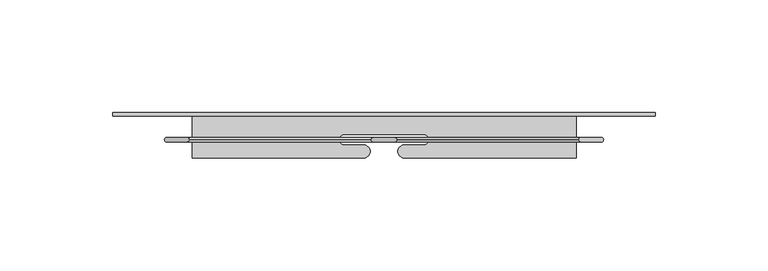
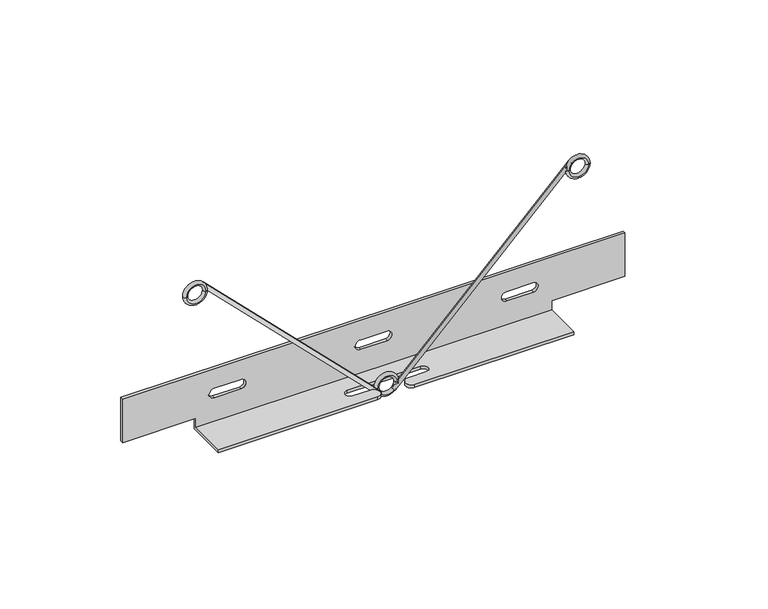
"""IFC4 building model written with IfcOpenShell, lengths in millimetres: proxy geometry, Agilis Panel Springs_Installed : Agilis Panel Springs_Installed."""

from ifc_helpers import new_model, si_unit, point, frame, frame_2d, origin, place, context, project, spatial, polyline, circle_curve, ellipse_curve, trimmed, segment, composite_curve, outline, extrude, source, transform, mapped, element, save
from ifc_brep_helpers import plane_surface, cylinder_surface, revolved_surface, advanced_brep


def generic_models_b4303d49(model_context):
    return source(origin(), model_context, "Body", "SolidModel", [
        advanced_brep(
        [(-120.0, 10.45, 28.0), (-120.0, 10.45, 6.0), (-85.0, 10.45, 6.0), (-85.0, 10.45, 1.5), (85.0, 10.45, 1.5), (85.0, 10.45, 6.0), (120.0, 10.45, 6.0), (120.0, 10.45, 28.0), (-6.35, 10.45, 18.1), (6.35, 10.45, 18.1), (6.35, 10.45, 13.4), (-6.35, 10.45, 13.4), (-76.2, 10.45, 18.1), (-63.5, 10.45, 18.1), (-63.5, 10.45, 13.4), (-76.2, 10.45, 13.4), (76.2, 10.45, 18.1), (76.2, 10.45, 13.4), (63.5, 10.45, 13.4), (63.5, 10.45, 18.1), (120.0, 11.95, 28.0), (120.0, 11.95, 6.0), (85.0, 11.95, 6.0), (85.0, 11.95, 0.0), (-85.0, 11.95, 0.0), (-85.0, 11.95, 6.0), (-120.0, 11.95, 6.0), (-120.0, 11.95, 28.0), (-6.35, 11.95, 13.4), (6.35, 11.95, 13.4), (6.35, 11.95, 18.1), (-6.35, 11.95, 18.1), (-76.2, 11.95, 13.4), (-63.5, 11.95, 13.4), (-63.5, 11.95, 18.1), (-76.2, 11.95, 18.1), (63.5, 11.95, 18.1), (63.5, 11.95, 13.4), (76.2, 11.95, 13.4), (76.2, 11.95, 18.1), (-85.0, -8.05, 1.5), (-9.0, -8.05, 1.5), (-9.0, -2.35, 1.5), (-17.5, -2.35, 1.5), (-17.5, 2.35, 1.5), (17.5, 2.35, 1.5), (17.5, -2.35, 1.5), (9.0, -2.35, 1.5), (9.0, -8.05, 1.5), (85.0, -8.05, 1.5), (85.0, -8.05, 0.0), (9.0, -8.05, 0.0), (9.0, -2.35, 0.0), (17.5, -2.35, 0.0), (17.5, 2.35, 0.0), (-17.5, 2.35, 0.0), (-17.5, -2.35, 0.0), (-9.0, -2.35, 0.0), (-9.0, -8.05, 0.0), (-85.0, -8.05, 0.0)],
        [
            (0, 1),
            (1, 2),
            (2, 3),
            (3, 4),
            (4, 5),
            (5, 6),
            (6, 7),
            (7, 0),
            (8, 9),
            (9, 10, circle_curve(frame((6.35, 10.45, 15.75), z_axis=(0.0, 1.0, 0.0), x_axis=(1.0, 0.0, 0.0)), 2.35)),
            (10, 11),
            (11, 8, circle_curve(frame((-6.35, 10.45, 15.75), z_axis=(0.0, 1.0, 0.0), x_axis=(1.0, 0.0, 0.0)), 2.35)),
            (12, 13),
            (13, 14, circle_curve(frame((-63.5, 10.45, 15.75), z_axis=(0.0, 1.0, 0.0), x_axis=(1.0, 0.0, 0.0)), 2.35)),
            (14, 15),
            (15, 12, circle_curve(frame((-76.2, 10.45, 15.75), z_axis=(0.0, 1.0, 0.0), x_axis=(1.0, 0.0, 0.0)), 2.35)),
            (16, 17, circle_curve(frame((76.2, 10.45, 15.75), z_axis=(0.0, 1.0, 0.0), x_axis=(-1.0, 0.0, 0.0)), 2.35)),
            (17, 18),
            (18, 19, circle_curve(frame((63.5, 10.45, 15.75), z_axis=(0.0, 1.0, 0.0), x_axis=(-1.0, 0.0, 0.0)), 2.35)),
            (19, 16),
            (20, 21),
            (21, 22),
            (22, 23),
            (23, 24),
            (24, 25),
            (25, 26),
            (26, 27),
            (27, 20),
            (28, 29),
            (29, 30, circle_curve(frame((6.35, 11.95, 15.75), z_axis=(0.0, -1.0, 0.0), x_axis=(1.0, 0.0, 0.0)), 2.35)),
            (30, 31),
            (31, 28, circle_curve(frame((-6.35, 11.95, 15.75), z_axis=(0.0, -1.0, 0.0), x_axis=(1.0, 0.0, 0.0)), 2.35)),
            (32, 33),
            (33, 34, circle_curve(frame((-63.5, 11.95, 15.75), z_axis=(0.0, -1.0, 0.0), x_axis=(1.0, 0.0, 0.0)), 2.35)),
            (34, 35),
            (35, 32, circle_curve(frame((-76.2, 11.95, 15.75), z_axis=(0.0, -1.0, 0.0), x_axis=(1.0, 0.0, 0.0)), 2.35)),
            (36, 37, circle_curve(frame((63.5, 11.95, 15.75), z_axis=(0.0, -1.0, 0.0), x_axis=(-1.0, 0.0, 0.0)), 2.35)),
            (37, 38),
            (38, 39, circle_curve(frame((76.2, 11.95, 15.75), z_axis=(0.0, -1.0, 0.0), x_axis=(-1.0, 0.0, 0.0)), 2.35)),
            (39, 36),
            (6, 21),
            (20, 7),
            (27, 0),
            (26, 1),
            (40, 41),
            (41, 42, circle_curve(frame((-9.0, -5.2, 1.5), z_axis=(0.0, 0.0, 1.0), x_axis=(-1.0, 0.0, 0.0)), 2.85)),
            (42, 43),
            (43, 44, circle_curve(frame((-17.5, 0.0, 1.5), z_axis=(0.0, 0.0, -1.0), x_axis=(-1.0, 0.0, 0.0)), 2.35)),
            (44, 45),
            (45, 46, circle_curve(frame((17.5, 0.0, 1.5), z_axis=(0.0, 0.0, -1.0), x_axis=(1.0, 0.0, 0.0)), 2.35)),
            (46, 47),
            (47, 48, circle_curve(frame((9.0, -5.2, 1.5), z_axis=(0.0, 0.0, 1.0), x_axis=(1.0, 0.0, 0.0)), 2.85)),
            (48, 49),
            (49, 4),
            (3, 40),
            (50, 51),
            (51, 52, circle_curve(frame((9.0, -5.2, 0.0), z_axis=(0.0, 0.0, -1.0), x_axis=(1.0, 0.0, 0.0)), 2.85)),
            (52, 53),
            (53, 54, circle_curve(frame((17.5, 0.0, 0.0), z_axis=(0.0, 0.0, 1.0), x_axis=(1.0, 0.0, 0.0)), 2.35)),
            (54, 55),
            (55, 56, circle_curve(frame((-17.5, 0.0, 0.0), z_axis=(0.0, 0.0, 1.0), x_axis=(-1.0, 0.0, 0.0)), 2.35)),
            (56, 57),
            (57, 58, circle_curve(frame((-9.0, -5.2, 0.0), z_axis=(0.0, 0.0, -1.0), x_axis=(-1.0, 0.0, 0.0)), 2.85)),
            (58, 59),
            (59, 24),
            (23, 50),
            (48, 51),
            (50, 49),
            (58, 41),
            (40, 59),
            (2, 25),
            (22, 5),
            (57, 42),
            (56, 43),
            (55, 44),
            (54, 45),
            (53, 46),
            (52, 47),
            (11, 28),
            (31, 8),
            (10, 29),
            (9, 30),
            (15, 32),
            (35, 12),
            (14, 33),
            (13, 34),
            (19, 36),
            (39, 16),
            (18, 37),
            (17, 38),
        ],
        [
            plane_surface(frame((-85.0, 10.45, 1.5), z_axis=(0.0, -1.0, 0.0), x_axis=(-1.0, 0.0, 0.0))),
            plane_surface(frame((-85.0, 11.95, 1.5), z_axis=(0.0, 1.0, 0.0), x_axis=(1.0, 0.0, 0.0))),
            plane_surface(frame((120.0, 11.95, 1.5), z_axis=(1.0, 0.0, 0.0), x_axis=(0.0, -1.0, 0.0))),
            plane_surface(frame((120.0, 11.95, 28.0), z_axis=(0.0, 0.0, 1.0), x_axis=(0.0, -1.0, 0.0))),
            plane_surface(frame((-120.0, 11.95, 28.0), z_axis=(-1.0, 0.0, 0.0), x_axis=(0.0, -1.0, 0.0))),
            plane_surface(frame((-85.0, -8.05, 1.5), z_axis=(0.0, 0.0, 1.0), x_axis=(-1.0, 0.0, 0.0))),
            plane_surface(frame((-85.0, -8.05, 0.0), z_axis=(0.0, 0.0, -1.0), x_axis=(1.0, 0.0, 0.0))),
            plane_surface(frame((85.0, -8.05, 1.5), z_axis=(0.0, -1.0, 0.0), x_axis=(0.0, 0.0, -1.0))),
            plane_surface(frame((-85.0, -8.05, 1.5), z_axis=(-1.0, 0.0, 0.0), x_axis=(0.0, 0.0, -1.0))),
            plane_surface(frame((85.0, 11.95, 1.5), z_axis=(1.0, 0.0, 0.0), x_axis=(0.0, 0.0, -1.0))),
            plane_surface(frame((120.0, 13.45, 6.0), z_axis=(0.0, 0.0, -1.0), x_axis=(0.0, -1.0, 0.0))),
            plane_surface(frame((-85.0, 13.45, 6.0), z_axis=(0.0, 0.0, -1.0), x_axis=(0.0, -1.0, 0.0))),
            cylinder_surface(frame((-9.0, -5.2, 0.0), z_axis=(0.0, 0.0, -1.0), x_axis=(-1.0, 0.0, 0.0)), 2.85),
            plane_surface(frame((-9.0, -2.35, 3.0), z_axis=(0.0, 1.0, 0.0), x_axis=(0.0, 0.0, -1.0))),
            revolved_surface(polyline([(-19.85, 0.0, 1.5), (-19.85, 0.0, 0.0)]), (-17.5, 0.0, 0.0), (0.0, 0.0, 1.0)),
            plane_surface(frame((-17.5, 2.35, 3.0), z_axis=(0.0, -1.0, 0.0), x_axis=(0.0, 0.0, -1.0))),
            revolved_surface(polyline([(19.85, 0.0, 1.5), (19.85, 0.0, 0.0)]), (17.5, 0.0, 0.0), (0.0, 0.0, 1.0)),
            plane_surface(frame((17.5, -2.35, 3.0), z_axis=(0.0, 1.0, 0.0), x_axis=(0.0, 0.0, -1.0))),
            cylinder_surface(frame((9.0, -5.2, 0.0), z_axis=(0.0, 0.0, -1.0), x_axis=(1.0, 0.0, 0.0)), 2.85),
            revolved_surface(polyline([(-3.9999999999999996, 11.95, 15.75), (-3.9999999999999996, 10.45, 15.75)]), (-6.35, 10.45, 15.75), (0.0, 1.0, 0.0)),
            plane_surface(frame((-6.35, 13.45, 13.4), z_axis=(0.0, 0.0, 1.0), x_axis=(0.0, -1.0, 0.0))),
            revolved_surface(polyline([(8.7, 11.95, 15.75), (8.7, 10.45, 15.75)]), (6.35, 10.45, 15.75), (0.0, 1.0, 0.0)),
            plane_surface(frame((6.35, 13.45, 18.1), z_axis=(0.0, 0.0, -1.0), x_axis=(0.0, -1.0, 0.0))),
            revolved_surface(polyline([(-73.85000000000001, 11.95, 15.75), (-73.85000000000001, 10.45, 15.75)]), (-76.2, 10.45, 15.75), (0.0, 1.0, 0.0)),
            plane_surface(frame((-76.2, 13.45, 13.4), z_axis=(0.0, 0.0, 1.0), x_axis=(0.0, -1.0, 0.0))),
            revolved_surface(polyline([(-61.15, 11.95, 15.75), (-61.15, 10.45, 15.75)]), (-63.5, 10.45, 15.75), (0.0, 1.0, 0.0)),
            plane_surface(frame((-63.5, 13.45, 18.1), z_axis=(0.0, 0.0, -1.0), x_axis=(0.0, -1.0, 0.0))),
            plane_surface(frame((76.2, 13.45, 18.1), z_axis=(0.0, 0.0, -1.0), x_axis=(0.0, -1.0, 0.0))),
            revolved_surface(polyline([(61.15, 11.95, 15.75), (61.15, 10.45, 15.75)]), (63.5, 10.45, 15.75), (0.0, 1.0, 0.0)),
            plane_surface(frame((63.5, 13.45, 13.4), z_axis=(0.0, 0.0, 1.0), x_axis=(0.0, -1.0, 0.0))),
            revolved_surface(polyline([(73.85000000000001, 11.95, 15.75), (73.85000000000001, 10.45, 15.75)]), (76.2, 10.45, 15.75), (0.0, 1.0, 0.0)),
        ],
        [
            (0, [[1, 2, 3, 4, 5, 6, 7, 8], [9, 10, 11, 12], [13, 14, 15, 16], [17, 18, 19, 20]]),
            (1, [[21, 22, 23, 24, 25, 26, 27, 28], [29, 30, 31, 32], [33, 34, 35, 36], [37, 38, 39, 40]]),
            (2, [[-7, 41, -21, 42]]),
            (3, [[-42, -28, 43, -8]]),
            (4, [[-27, 44, -1, -43]]),
            (5, [[45, 46, 47, 48, 49, 50, 51, 52, 53, 54, -4, 55]]),
            (6, [[56, 57, 58, 59, 60, 61, 62, 63, 64, 65, -24, 66]]),
            (7, [[-53, 67, -56, 68]]),
            (7, [[-64, 69, -45, 70]]),
            (8, [[-70, -55, -3, 71, -25, -65]]),
            (9, [[-23, 72, -5, -54, -68, -66]]),
            (10, [[-22, -41, -6, -72]]),
            (11, [[-2, -44, -26, -71]]),
            (12, [[-46, -69, -63, 73]]),
            (13, [[-62, 74, -47, -73]]),
            (14, [[-61, 75, -48, -74]]),
            (15, [[-60, 76, -49, -75]]),
            (16, [[-59, 77, -50, -76]]),
            (17, [[-58, 78, -51, -77]]),
            (18, [[-57, -67, -52, -78]]),
            (19, [[-12, 79, -32, 80]]),
            (20, [[-11, 81, -29, -79]]),
            (21, [[-10, 82, -30, -81]]),
            (22, [[-31, -82, -9, -80]]),
            (23, [[-16, 83, -36, 84]]),
            (24, [[-15, 85, -33, -83]]),
            (25, [[-14, 86, -34, -85]]),
            (26, [[-35, -86, -13, -84]]),
            (27, [[-20, 87, -40, 88]]),
            (28, [[-19, 89, -37, -87]]),
            (29, [[-18, 90, -38, -89]]),
            (30, [[-39, -90, -17, -88]]),
        ],
    ),
        advanced_brep(
        [(96.1749338, -1.0, 77.9916145), (96.1749338, 1.0, 77.9916145), (86.6749338, 1.0, 77.9916145), (86.6749338, -1.0, 77.9916145)],
        [
            (0, 1, circle_curve(frame((96.1749338, 0.0, 77.9916145), z_axis=(0.0, 0.0, 1.0), x_axis=(0.0, 1.0, 0.0)), 1.0)),
            (1, 2, circle_curve(frame((91.4249338, 1.0, 77.9916145), z_axis=(0.0, -1.0, 0.0), x_axis=(-1.0, 0.0, 0.0)), 4.75)),
            (2, 3, circle_curve(frame((86.6749338, 0.0, 77.9916145), z_axis=(0.0, 0.0, 1.0), x_axis=(0.0, 1.0, 0.0)), 1.0)),
            (3, 0, circle_curve(frame((91.4249338, -1.0, 77.9916145), z_axis=(0.0, 1.0, 0.0), x_axis=(-1.0, 0.0, 0.0)), 4.75)),
            (1, 0, circle_curve(frame((96.1749338, 0.0, 77.9916145), z_axis=(0.0, 0.0, 1.0), x_axis=(0.0, 1.0, 0.0)), 1.0)),
            (3, 2, circle_curve(frame((86.6749338, 0.0, 77.9916145), z_axis=(0.0, 0.0, 1.0), x_axis=(0.0, 1.0, 0.0)), 1.0)),
            (2, 1, circle_curve(frame((91.4249338, 1.0, 77.9916145), z_axis=(0.0, -1.0, 0.0), x_axis=(1.0, 0.0, 0.0)), 4.75)),
            (0, 3, circle_curve(frame((91.4249338, -1.0, 77.9916145), z_axis=(0.0, 1.0, 0.0), x_axis=(1.0, 0.0, 0.0)), 4.75)),
        ],
        [
            revolved_surface(trimmed(ellipse_curve(frame((86.6749338, 0.0, 77.9916145), z_axis=(0.0, 0.0, 1.0), x_axis=(0.0, 1.0, 0.0)), 1.0, 1.0), [point((86.6749338, 1.0, 77.9916145))], [point((86.6749338, -1.0, 77.9916145))], True, "CARTESIAN"), (91.4249338, 0.0, 77.9916145), (0.0, -1.0, 0.0)),
            revolved_surface(trimmed(ellipse_curve(frame((86.6749338, 0.0, 77.9916145), z_axis=(0.0, 0.0, 1.0), x_axis=(0.0, 1.0, 0.0)), 1.0, 1.0), [point((86.6749338, -1.0, 77.9916145))], [point((86.6749338, 1.0, 77.9916145))], True, "CARTESIAN"), (91.4249338, 0.0, 77.9916145), (0.0, -1.0, 0.0)),
            revolved_surface(trimmed(ellipse_curve(frame((96.1749338, 0.0, 77.9916145), z_axis=(0.0, 0.0, -1.0), x_axis=(0.0, 1.0, 0.0)), 1.0, 1.0), [point((96.1749338, 1.0, 77.9916145))], [point((96.1749338, -1.0, 77.9916145))], True, "CARTESIAN"), (91.4249338, 0.0, 77.9916145), (0.0, -1.0, 0.0)),
            revolved_surface(trimmed(ellipse_curve(frame((96.1749338, 0.0, 77.9916145), z_axis=(0.0, 0.0, -1.0), x_axis=(0.0, 1.0, 0.0)), 1.0, 1.0), [point((96.1749338, -1.0, 77.9916145))], [point((96.1749338, 1.0, 77.9916145))], True, "CARTESIAN"), (91.4249338, 0.0, 77.9916145), (0.0, -1.0, 0.0)),
        ],
        [
            (0, [[1, 2, 3, 4]]),
            (1, [[5, -4, 6, -2]]),
            (2, [[-3, 7, -1, 8]]),
            (3, [[-6, -8, -5, -7]]),
        ],
    ),
        extrude(outline(composite_curve([segment(trimmed(circle_curve(frame_2d((0.0, 1.0)), 1.0), [point((0.0, 2.0000001))], [point((0.0, 0.0))], False, "CARTESIAN"), True, "CONTINUOUS"), segment(trimmed(circle_curve(frame_2d((0.0, 1.0)), 1.0), [point((0.0, 0.0))], [point((0.0, 2.0000001))], False, "CARTESIAN"), True, "CONTINUOUS")], self_intersect=False)), frame((3.9931668, 0.0, -4.1377064), z_axis=(0.7071067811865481, 0.0, 0.7071067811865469), x_axis=(0.0, 1.0, 0.0)), (0.0, 0.0, 1.0), 120.0),
        advanced_brep(
        [(-96.1749338, 1.0, 77.9916145), (-96.1749338, -1.0, 77.9916145), (-86.6749338, -1.0, 77.9916145), (-86.6749338, 1.0, 77.9916145)],
        [
            (0, 1, circle_curve(frame((-96.1749338, 0.0, 77.9916145), z_axis=(0.0, 0.0, 1.0), x_axis=(0.0, 1.0, 0.0)), 1.0)),
            (1, 2, circle_curve(frame((-91.4249338, -1.0, 77.9916145), z_axis=(0.0, 1.0, 0.0), x_axis=(1.0, 0.0, 0.0)), 4.75)),
            (2, 3, circle_curve(frame((-86.6749338, 0.0, 77.9916145), z_axis=(0.0, 0.0, 1.0), x_axis=(0.0, 1.0, 0.0)), 1.0)),
            (3, 0, circle_curve(frame((-91.4249338, 1.0, 77.9916145), z_axis=(0.0, -1.0, 0.0), x_axis=(1.0, 0.0, 0.0)), 4.75)),
            (1, 0, circle_curve(frame((-96.1749338, 0.0, 77.9916145), z_axis=(0.0, 0.0, 1.0), x_axis=(0.0, 1.0, 0.0)), 1.0)),
            (3, 2, circle_curve(frame((-86.6749338, 0.0, 77.9916145), z_axis=(0.0, 0.0, 1.0), x_axis=(0.0, 1.0, 0.0)), 1.0)),
            (2, 1, circle_curve(frame((-91.4249338, -1.0, 77.9916145), z_axis=(0.0, 1.0, 0.0), x_axis=(-1.0, 0.0, 0.0)), 4.75)),
            (0, 3, circle_curve(frame((-91.4249338, 1.0, 77.9916145), z_axis=(0.0, -1.0, 0.0), x_axis=(-1.0, 0.0, 0.0)), 4.75)),
        ],
        [
            revolved_surface(trimmed(ellipse_curve(frame((-86.6749338, 0.0, 77.9916145), z_axis=(0.0, 0.0, 1.0), x_axis=(0.0, 1.0, 0.0)), 1.0, 1.0), [point((-86.6749338, -1.0, 77.9916145))], [point((-86.6749338, 1.0, 77.9916145))], True, "CARTESIAN"), (-91.4249338, 0.0, 77.9916145), (0.0, 1.0, 0.0)),
            revolved_surface(trimmed(ellipse_curve(frame((-86.6749338, 0.0, 77.9916145), z_axis=(0.0, 0.0, 1.0), x_axis=(0.0, 1.0, 0.0)), 1.0, 1.0), [point((-86.6749338, 1.0, 77.9916145))], [point((-86.6749338, -1.0, 77.9916145))], True, "CARTESIAN"), (-91.4249338, 0.0, 77.9916145), (0.0, 1.0, 0.0)),
            revolved_surface(trimmed(ellipse_curve(frame((-96.1749338, 0.0, 77.9916145), z_axis=(0.0, 0.0, -1.0), x_axis=(0.0, 1.0, 0.0)), 1.0, 1.0), [point((-96.1749338, -1.0, 77.9916145))], [point((-96.1749338, 1.0, 77.9916145))], True, "CARTESIAN"), (-91.4249338, 0.0, 77.9916145), (0.0, 1.0, 0.0)),
            revolved_surface(trimmed(ellipse_curve(frame((-96.1749338, 0.0, 77.9916145), z_axis=(0.0, 0.0, -1.0), x_axis=(0.0, 1.0, 0.0)), 1.0, 1.0), [point((-96.1749338, 1.0, 77.9916145))], [point((-96.1749338, -1.0, 77.9916145))], True, "CARTESIAN"), (-91.4249338, 0.0, 77.9916145), (0.0, 1.0, 0.0)),
        ],
        [
            (0, [[1, 2, 3, 4]]),
            (1, [[5, -4, 6, -2]]),
            (2, [[-3, 7, -1, 8]]),
            (3, [[-6, -8, -5, -7]]),
        ],
    ),
        extrude(outline(composite_curve([segment(trimmed(circle_curve(frame_2d((0.0, -1.0)), 1.0), [point((0.0, -2.0000001))], [point((0.0, 0.0))], False, "CARTESIAN"), True, "CONTINUOUS"), segment(trimmed(circle_curve(frame_2d((0.0, -1.0)), 1.0), [point((0.0, 0.0))], [point((0.0, -2.0000001))], False, "CARTESIAN"), True, "CONTINUOUS")], self_intersect=False)), frame((-3.9931668, 0.0, -4.1377064), z_axis=(-0.7071067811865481, 0.0, 0.7071067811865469), x_axis=(0.0, 1.0, 0.0)), (0.0, 0.0, 1.0), 120.0),
        advanced_brep(
        [(4.75, 1.0, 0.0), (4.75, -1.0, 0.0), (-4.75, -1.0, 0.0), (-4.75, 1.0, 0.0)],
        [
            (0, 1, circle_curve(frame((4.75, 0.0, 0.0), z_axis=(0.0, 0.0, -1.0), x_axis=(0.0, 1.0, 0.0)), 1.0)),
            (1, 2, circle_curve(frame((0.0, -1.0, 0.0), z_axis=(0.0, 1.0, 0.0), x_axis=(-1.0, 0.0, 0.0)), 4.75)),
            (2, 3, circle_curve(frame((-4.75, 0.0, 0.0), z_axis=(0.0, 0.0, -1.0), x_axis=(0.0, 1.0, 0.0)), 1.0)),
            (3, 0, circle_curve(frame((0.0, 1.0, 0.0), z_axis=(0.0, -1.0, 0.0), x_axis=(-1.0, 0.0, 0.0)), 4.75)),
            (1, 0, circle_curve(frame((4.75, 0.0, 0.0), z_axis=(0.0, 0.0, -1.0), x_axis=(0.0, 1.0, 0.0)), 1.0)),
            (3, 2, circle_curve(frame((-4.75, 0.0, 0.0), z_axis=(0.0, 0.0, -1.0), x_axis=(0.0, 1.0, 0.0)), 1.0)),
            (2, 1, circle_curve(frame((0.0, -1.0, 0.0), z_axis=(0.0, 1.0, 0.0), x_axis=(1.0, 0.0, 0.0)), 4.75)),
            (0, 3, circle_curve(frame((0.0, 1.0, 0.0), z_axis=(0.0, -1.0, 0.0), x_axis=(1.0, 0.0, 0.0)), 4.75)),
        ],
        [
            revolved_surface(trimmed(ellipse_curve(frame((-4.75, 0.0, 0.0), z_axis=(0.0, 0.0, -1.0), x_axis=(0.0, 1.0, 0.0)), 1.0, 1.0), [point((-4.75, -1.0, 0.0))], [point((-4.75, 1.0, 0.0))], True, "CARTESIAN"), (0.0, 0.0, 0.0), (0.0, 1.0, 0.0)),
            revolved_surface(trimmed(ellipse_curve(frame((-4.75, 0.0, 0.0), z_axis=(0.0, 0.0, -1.0), x_axis=(0.0, 1.0, 0.0)), 1.0, 1.0), [point((-4.75, 1.0, 0.0))], [point((-4.75, -1.0, 0.0))], True, "CARTESIAN"), (0.0, 0.0, 0.0), (0.0, 1.0, 0.0)),
            revolved_surface(trimmed(ellipse_curve(frame((4.75, 0.0, 0.0), z_axis=(0.0, 0.0, 1.0), x_axis=(0.0, 1.0, 0.0)), 1.0, 1.0), [point((4.75, -1.0, 0.0))], [point((4.75, 1.0, 0.0))], True, "CARTESIAN"), (0.0, 0.0, 0.0), (0.0, 1.0, 0.0)),
            revolved_surface(trimmed(ellipse_curve(frame((4.75, 0.0, 0.0), z_axis=(0.0, 0.0, 1.0), x_axis=(0.0, 1.0, 0.0)), 1.0, 1.0), [point((4.75, 1.0, 0.0))], [point((4.75, -1.0, 0.0))], True, "CARTESIAN"), (0.0, 0.0, 0.0), (0.0, 1.0, 0.0)),
        ],
        [
            (0, [[1, 2, 3, 4]]),
            (1, [[5, -4, 6, -2]]),
            (2, [[-3, 7, -1, 8]]),
            (3, [[-6, -8, -5, -7]]),
        ],
    ),
    ])


if __name__ == "__main__":
    model = new_model("IFC4")
    model_context = context("Model", 3, world=origin())
    ifc_project = project(units=[si_unit("LENGTHUNIT", "METRE", prefix="MILLI")], contexts=[model_context])
    site = spatial("IfcSite", under=ifc_project)
    building = spatial("IfcBuilding", under=site)
    placement = place(None, origin())
    generic_models_shape = generic_models_b4303d49(model_context)
    element("IfcBuildingElementProxy", 1, Name="Agilis Panel Springs_Installed : Agilis Panel Springs_Installed", ObjectType="Agilis Panel Springs_Installed : Agilis Panel Springs_Installed", at=placement, inside=building, context=model_context, shape_type="MappedRepresentation", body=[
        mapped(generic_models_shape, transform((0.0, 0.0, 0.0), x_axis=(1.0, 0.0, 0.0), y_axis=(0.0, 1.0, 0.0), z_axis=(0.0, 0.0, 1.0))),
    ])
    save(model, "model.ifc")
